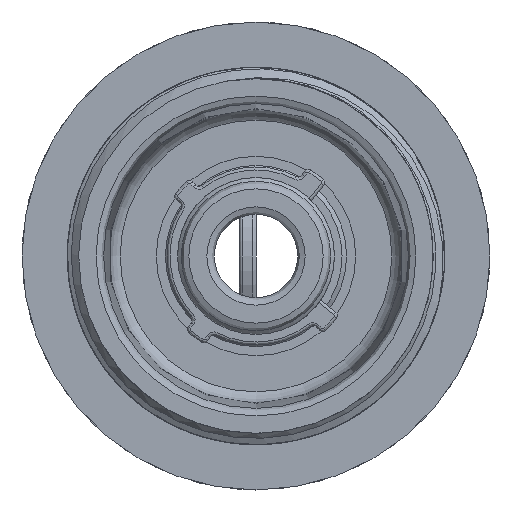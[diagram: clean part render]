
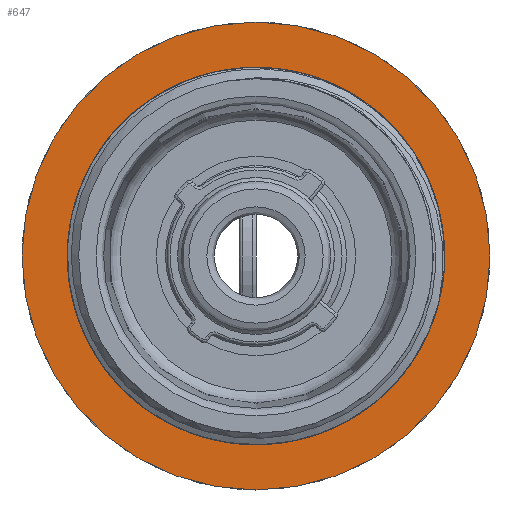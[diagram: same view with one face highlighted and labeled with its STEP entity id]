
A CAD part, left-side view. The second image highlights one B-rep face of the part: STEP entity #647.
In plain terms, the highlighted planar face has unit normal (-1, 0, 0).
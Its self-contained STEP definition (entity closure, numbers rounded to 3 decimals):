
#647 = ADVANCED_FACE( '', ( #1474, #1475 ), #1476, .F. );
#1474 = FACE_BOUND( '', #3301, .T. );
#1475 = FACE_OUTER_BOUND( '', #3302, .T. );
#1476 = PLANE( '', #3303 );
#3301 = EDGE_LOOP( '', ( #5657 ) );
#3302 = EDGE_LOOP( '', ( #5658 ) );
#3303 = AXIS2_PLACEMENT_3D( '', #5659, #5660, #5661 );
#5657 = ORIENTED_EDGE( '', *, *, #7289, .F. );
#5658 = ORIENTED_EDGE( '', *, *, #7391, .T. );
#5659 = CARTESIAN_POINT( '', ( -38.75, 0., 11.25 ) );
#5660 = DIRECTION( '', ( 1., 0., 0. ) );
#5661 = DIRECTION( '', ( 0., 0., -1. ) );
#7289 = EDGE_CURVE( '', #8376, #8376, #8377, .T. );
#7391 = EDGE_CURVE( '', #8518, #8518, #8519, .T. );
#8376 = VERTEX_POINT( '', #10487 );
#8377 = CIRCLE( '', #10488, 11.25 );
#8518 = VERTEX_POINT( '', #10658 );
#8519 = CIRCLE( '', #10659, 15.5 );
#10487 = CARTESIAN_POINT( '', ( -38.75, 0., 11.25 ) );
#10488 = AXIS2_PLACEMENT_3D( '', #12049, #12050, #12051 );
#10658 = CARTESIAN_POINT( '', ( -38.75, 0., 15.5 ) );
#10659 = AXIS2_PLACEMENT_3D( '', #12201, #12202, #12203 );
#12049 = CARTESIAN_POINT( '', ( -38.75, 0., 0. ) );
#12050 = DIRECTION( '', ( -1., 0., 0. ) );
#12051 = DIRECTION( '', ( 0., 0., 1. ) );
#12201 = CARTESIAN_POINT( '', ( -38.75, 0., 0. ) );
#12202 = DIRECTION( '', ( -1., 0., 0. ) );
#12203 = DIRECTION( '', ( 0., 0., 1. ) );
